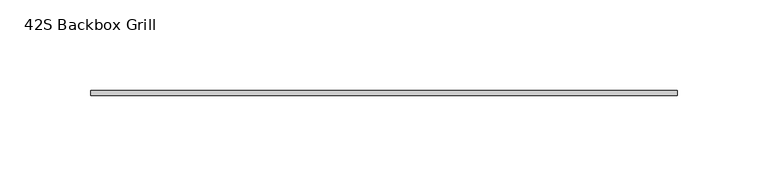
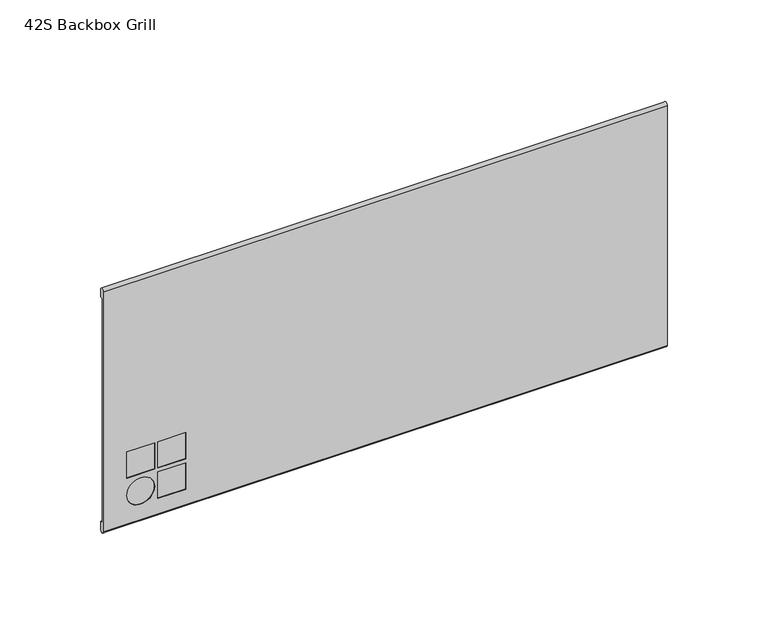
"""IFC4 building model written with IfcOpenShell, lengths in millimetres: proxy geometry, d&b xS-Series 42S Backbox Grill : 42S Backbox Grill."""

from ifc_helpers import new_model, si_unit, point, frame, frame_2d, origin, place, context, project, spatial, polyline, circle_curve, trimmed, segment, composite_curve, outline, extrude, source, transform, mapped, element, save
from ifc_brep_helpers import plane_surface, cylinder_surface, revolved_surface, advanced_brep


def proxy_42s_backbox_grill_2f24f7a1(model_context):
    return source(origin(), model_context, "Body", "SolidModel", [
        advanced_brep(
        [(161.5, -92.5, 72.7), (161.5, -95.1, 72.7), (161.5, -95.1, -72.7), (161.5, -92.5, -72.7), (161.5, -92.5, -68.0), (161.5, -93.85, -68.0), (161.5, -93.85, 68.0), (161.5, -92.5, 68.0), (-161.5, -92.5, 72.7), (-161.5, -92.5, 68.0), (-161.5, -93.85, 68.0), (-161.5, -93.85, -68.0), (-161.5, -92.5, -68.0), (-161.5, -92.5, -72.7), (-161.5, -95.1, -72.7), (-161.5, -95.1, 72.7), (-148.15, -95.1, -28.8926822), (-132.15, -95.1, -28.8926822), (-132.15, -95.1, -44.8926822), (-148.15, -95.1, -44.8926822), (-130.4, -95.1, -28.8926822), (-114.4, -95.1, -28.8926822), (-114.4, -95.1, -44.8926822), (-130.4, -95.1, -44.8926822), (-130.4, -95.1, -47.3390233), (-114.4, -95.1, -47.3390233), (-114.4, -95.1, -63.3390233), (-130.4, -95.1, -63.3390233), (-132.15, -95.1, -55.3390233), (-148.15, -95.1, -55.3390233), (-132.15, -93.85, -28.8926822), (-148.15, -93.85, -28.8926822), (-148.15, -93.85, -44.8926822), (-132.15, -93.85, -44.8926822), (-114.4, -93.85, -28.8926822), (-130.4, -93.85, -28.8926822), (-130.4, -93.85, -44.8926822), (-114.4, -93.85, -44.8926822), (-114.4, -93.85, -47.3390233), (-130.4, -93.85, -47.3390233), (-130.4, -93.85, -63.3390233), (-114.4, -93.85, -63.3390233), (-148.15, -93.85, -55.3390233), (-132.15, -93.85, -55.3390233)],
        [
            (0, 1, circle_curve(frame((161.5, -93.8, 72.7), z_axis=(1.0, 0.0, 0.0), x_axis=(0.0, -1.0, 0.0)), 1.3)),
            (1, 2),
            (2, 3, circle_curve(frame((161.5, -93.8, -72.7), z_axis=(1.0, 0.0, 0.0), x_axis=(0.0, -1.0, 0.0)), 1.3)),
            (3, 4),
            (4, 5),
            (5, 6),
            (6, 7),
            (7, 0),
            (8, 9),
            (9, 10),
            (10, 11),
            (11, 12),
            (12, 13),
            (13, 14, circle_curve(frame((-161.5, -93.8, -72.7), z_axis=(-1.0, 0.0, 0.0), x_axis=(0.0, -1.0, 0.0)), 1.3)),
            (14, 15),
            (15, 8, circle_curve(frame((-161.5, -93.8, 72.7), z_axis=(-1.0, 0.0, 0.0), x_axis=(0.0, -1.0, 0.0)), 1.3)),
            (0, 8),
            (15, 1),
            (14, 2),
            (16, 17),
            (17, 18),
            (18, 19),
            (19, 16),
            (20, 21),
            (21, 22),
            (22, 23),
            (23, 20),
            (24, 25),
            (25, 26),
            (26, 27),
            (27, 24),
            (28, 29, circle_curve(frame((-140.15, -95.1, -55.3390233), z_axis=(0.0, 1.0, 0.0), x_axis=(1.0, 0.0, 0.0)), 8.0)),
            (29, 28, circle_curve(frame((-140.15, -95.1, -55.3390233), z_axis=(0.0, 1.0, 0.0), x_axis=(1.0, 0.0, 0.0)), 8.0)),
            (13, 3),
            (12, 4),
            (11, 5),
            (10, 6),
            (30, 31),
            (31, 32),
            (32, 33),
            (33, 30),
            (34, 35),
            (35, 36),
            (36, 37),
            (37, 34),
            (38, 39),
            (39, 40),
            (40, 41),
            (41, 38),
            (42, 43, circle_curve(frame((-140.15, -93.85, -55.3390233), z_axis=(0.0, -1.0, 0.0), x_axis=(1.0, 0.0, 0.0)), 8.0)),
            (43, 42, circle_curve(frame((-140.15, -93.85, -55.3390233), z_axis=(0.0, -1.0, 0.0), x_axis=(1.0, 0.0, 0.0)), 8.0)),
            (9, 7),
            (16, 31),
            (30, 17),
            (19, 32),
            (18, 33),
            (20, 35),
            (34, 21),
            (23, 36),
            (22, 37),
            (24, 39),
            (38, 25),
            (27, 40),
            (26, 41),
            (28, 43),
            (42, 29),
        ],
        [
            plane_surface(frame((161.5, -95.1, 72.7), z_axis=(1.0, 0.0, 0.0), x_axis=(0.0, 0.0, -1.0))),
            plane_surface(frame((-161.5, -95.1, 72.7), z_axis=(-1.0, 0.0, 0.0), x_axis=(0.0, 0.0, 1.0))),
            cylinder_surface(frame((-161.5, -93.8, 72.7), z_axis=(1.0, 0.0, 0.0), x_axis=(0.0, -1.0, 0.0)), 1.3),
            plane_surface(frame((161.5, -95.1, 72.7), z_axis=(0.0, -1.0, 0.0), x_axis=(-1.0, 0.0, 0.0))),
            cylinder_surface(frame((-161.5, -93.8, -72.7), z_axis=(1.0, 0.0, 0.0), x_axis=(0.0, -1.0, 0.0)), 1.3),
            plane_surface(frame((161.5, -92.5, -72.7), z_axis=(0.0, 1.0, 0.0), x_axis=(-1.0, 0.0, 0.0))),
            plane_surface(frame((161.5, -92.5, -68.0), z_axis=(0.0, 0.0, 1.0), x_axis=(-1.0, 0.0, 0.0))),
            plane_surface(frame((161.5, -93.85, -68.0), z_axis=(0.0, 1.0, 0.0), x_axis=(-1.0, 0.0, 0.0))),
            plane_surface(frame((161.5, -93.85, 68.0), z_axis=(0.0, 0.0, -1.0), x_axis=(-1.0, 0.0, 0.0))),
            plane_surface(frame((161.5, -92.5, 68.0), z_axis=(0.0, 1.0, 0.0), x_axis=(-1.0, 0.0, 0.0))),
            plane_surface(frame((-132.15, -95.1, -28.8926822), z_axis=(0.0, 0.0, -1.0), x_axis=(0.0, 1.0, 0.0))),
            plane_surface(frame((-148.15, -95.1, -28.8926822), z_axis=(1.0, 0.0, 0.0), x_axis=(0.0, 1.0, 0.0))),
            plane_surface(frame((-148.15, -95.1, -44.8926822), z_axis=(0.0, 0.0, 1.0), x_axis=(0.0, 1.0, 0.0))),
            plane_surface(frame((-132.15, -95.1, -44.8926822), z_axis=(-1.0, 0.0, 0.0), x_axis=(0.0, 1.0, 0.0))),
            plane_surface(frame((-114.4, -95.1, -28.8926822), z_axis=(0.0, 0.0, -1.0), x_axis=(0.0, 1.0, 0.0))),
            plane_surface(frame((-130.4, -95.1, -28.8926822), z_axis=(1.0, 0.0, 0.0), x_axis=(0.0, 1.0, 0.0))),
            plane_surface(frame((-130.4, -95.1, -44.8926822), z_axis=(0.0, 0.0, 1.0), x_axis=(0.0, 1.0, 0.0))),
            plane_surface(frame((-114.4, -95.1, -44.8926822), z_axis=(-1.0, 0.0, 0.0), x_axis=(0.0, 1.0, 0.0))),
            plane_surface(frame((-114.4, -95.1, -47.3390233), z_axis=(0.0, 0.0, -1.0), x_axis=(0.0, 1.0, 0.0))),
            plane_surface(frame((-130.4, -95.1, -47.3390233), z_axis=(1.0, 0.0, 0.0), x_axis=(0.0, 1.0, 0.0))),
            plane_surface(frame((-130.4, -95.1, -63.3390233), z_axis=(0.0, 0.0, 1.0), x_axis=(0.0, 1.0, 0.0))),
            plane_surface(frame((-114.4, -95.1, -63.3390233), z_axis=(-1.0, 0.0, 0.0), x_axis=(0.0, 1.0, 0.0))),
            revolved_surface(polyline([(-132.15, -95.1, -55.3390233), (-132.15, -93.85, -55.3390233)]), (-140.15, -90.5, -55.3390233), (0.0, -1.0, 0.0)),
        ],
        [
            (0, [[1, 2, 3, 4, 5, 6, 7, 8]]),
            (1, [[9, 10, 11, 12, 13, 14, 15, 16]]),
            (2, [[-1, 17, -16, 18]]),
            (3, [[-2, -18, -15, 19], [20, 21, 22, 23], [24, 25, 26, 27], [28, 29, 30, 31], [32, 33]]),
            (4, [[-3, -19, -14, 34]]),
            (5, [[-4, -34, -13, 35]]),
            (6, [[-5, -35, -12, 36]]),
            (7, [[-6, -36, -11, 37], [38, 39, 40, 41], [42, 43, 44, 45], [46, 47, 48, 49], [50, 51]]),
            (8, [[-7, -37, -10, 52]]),
            (9, [[-8, -52, -9, -17]]),
            (10, [[53, -38, 54, -20]]),
            (11, [[-53, -23, 55, -39]]),
            (12, [[-55, -22, 56, -40]]),
            (13, [[-54, -41, -56, -21]]),
            (14, [[57, -42, 58, -24]]),
            (15, [[-57, -27, 59, -43]]),
            (16, [[-59, -26, 60, -44]]),
            (17, [[-58, -45, -60, -25]]),
            (18, [[61, -46, 62, -28]]),
            (19, [[-61, -31, 63, -47]]),
            (20, [[-63, -30, 64, -48]]),
            (21, [[-62, -49, -64, -29]]),
            (22, [[65, -50, 66, -32]]),
            (22, [[-65, -33, -66, -51]]),
        ],
    ),
        extrude(outline(polyline([(-132.15, -95.1), (-148.15, -95.1), (-148.15, -93.85), (-132.15, -93.85), (-132.15, -95.1)])), frame((0.0, 0.0, -44.8926822), z_axis=(0.0, 0.0, 1.0), x_axis=(1.0, 0.0, 0.0)), (0.0, 0.0, 1.0), 16.0),
        extrude(outline(polyline([(-114.4, -95.1), (-130.4, -95.1), (-130.4, -93.85), (-114.4, -93.85), (-114.4, -95.1)])), frame((0.0, 0.0, -44.8926822), z_axis=(0.0, 0.0, 1.0), x_axis=(1.0, 0.0, 0.0)), (0.0, 0.0, 1.0), 16.0),
        extrude(outline(polyline([(-114.4, -95.1), (-130.4, -95.1), (-130.4, -93.85), (-114.4, -93.85), (-114.4, -95.1)])), frame((0.0, 0.0, -63.3390233), z_axis=(0.0, 0.0, 1.0), x_axis=(1.0, 0.0, 0.0)), (0.0, 0.0, 1.0), 16.0),
        extrude(outline(composite_curve([segment(trimmed(circle_curve(frame_2d((-55.3390233, -140.15)), 8.0), [point((-55.3390233, -148.15))], [point((-55.3390233, -132.15))], False, "CARTESIAN"), True, "CONTINUOUS"), segment(trimmed(circle_curve(frame_2d((-55.3390233, -140.15)), 8.0), [point((-55.3390233, -132.15))], [point((-55.3390233, -148.15))], False, "CARTESIAN"), True, "CONTINUOUS")], self_intersect=False)), frame((0.0, -95.1, 0.0), z_axis=(0.0, 1.0, 0.0), x_axis=(0.0, 0.0, 1.0)), (0.0, 0.0, 1.0), 1.25),
    ])


if __name__ == "__main__":
    model = new_model("IFC4")
    model_context = context("Model", 3, world=origin())
    ifc_project = project(units=[si_unit("LENGTHUNIT", "METRE", prefix="MILLI")], contexts=[model_context])
    site = spatial("IfcSite", under=ifc_project)
    building = spatial("IfcBuilding", under=site)
    placement = place(None, origin())
    proxy_42s_backbox_grill_shape = proxy_42s_backbox_grill_2f24f7a1(model_context)
    element("IfcBuildingElementProxy", 1, Name="d&b xS-Series 42S Backbox Grill : 42S Backbox Grill", ObjectType="d&b xS-Series 42S Backbox Grill : 42S Backbox Grill", at=placement, inside=building, context=model_context, shape_type="MappedRepresentation", body=[
        mapped(proxy_42s_backbox_grill_shape, transform((0.0, 0.0, 0.0), x_axis=(1.0, 0.0, 0.0), y_axis=(0.0, 1.0, 0.0), z_axis=(0.0, 0.0, 1.0))),
    ])
    save(model, "model.ifc")
